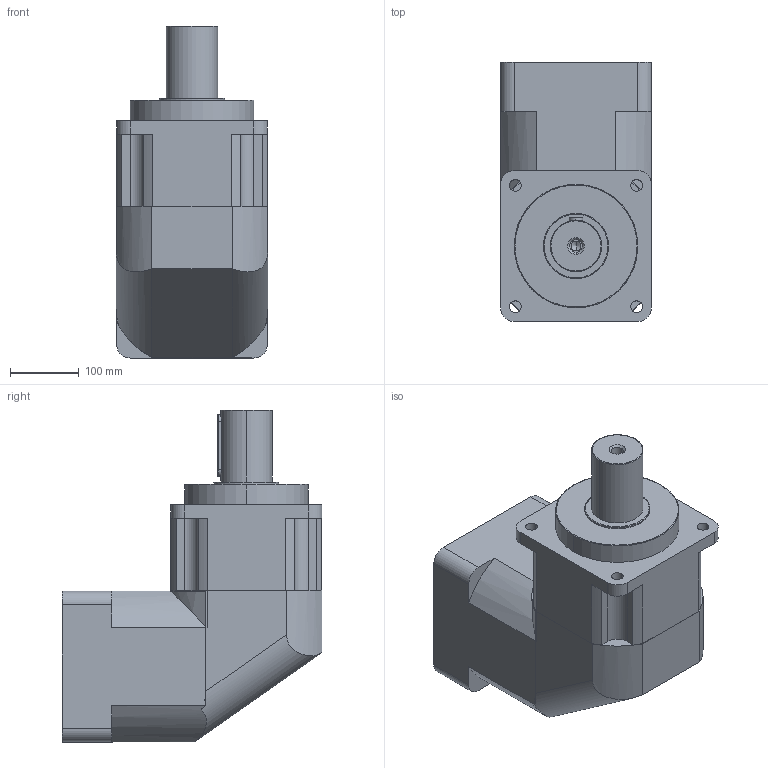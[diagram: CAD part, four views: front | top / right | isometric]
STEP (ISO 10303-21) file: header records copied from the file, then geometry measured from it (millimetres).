
FILE_DESCRIPTION (( 'STEP AP214' ), '1' );
FILE_NAME ('PAR-220-L1-55-200-235-M12.STEP', '2019-08-24T01:03:42', ( '微软用户' ), ( '微软中国' ), 'SwSTEP 2.0', 'SolidWorks 2014', '' );
FILE_SCHEMA (( 'AUTOMOTIVE_DESIGN' ));
Length unit declared in the file: millimetre
Products named in the file (2): PAR-220-L1-55-200-235-M12
Bounding box: 220.4 x 378.7 x 484 mm (x, y, z)
Volume: 20746554.7 mm3; surface area: 620342.2 mm2
Topology: 1 solids, 1 shells, 799 faces, 2279 edges, 1506 vertices
Faces by surface type: plane 625, cylinder 88, bspline 69, cone 17
Entity records: 35141 total; most frequent: CARTESIAN_POINT 5926, ORIENTED_EDGE 4532, DIRECTION 3754, EDGE_CURVE 2266, LINE 1926, VECTOR 1926, VERTEX_POINT 1506, AXIS2_PLACEMENT_3D 914
